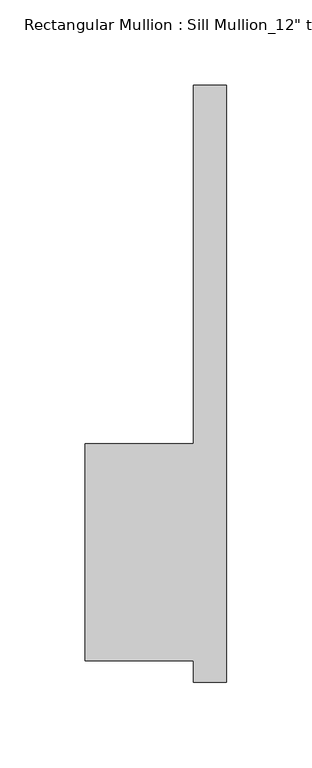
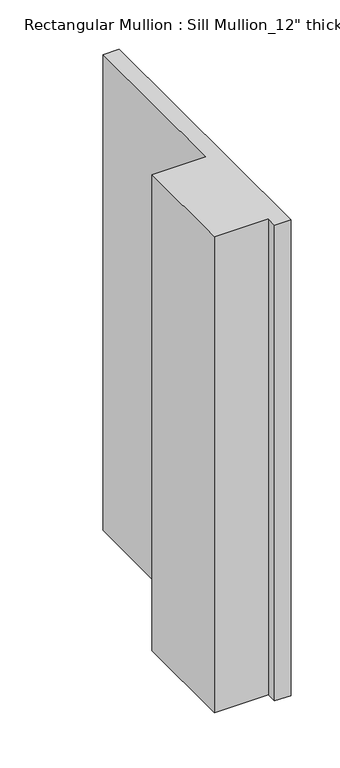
"""IFC4 building model written with IfcOpenShell, lengths in millimetres: member geometry."""

from ifc_helpers import new_model, si_unit, frame, origin, place, context, project, spatial, polyline, outline, extrude, source, transform, mapped, element, save


def member_700df7ac(model_context):
    return source(origin(), model_context, "Body", "SweptSolid", [
        extrude(outline(polyline([(-82.55, 50.8), (-19.05, 50.8), (-19.05, 260.35), (0.0, 260.35), (0.0, -88.9), (-19.05, -88.9), (-19.05, -76.2), (-82.55, -76.2), (-82.55, 50.8)])), frame((0.0, 0.0, -590.55), z_axis=(0.0, 0.0, 1.0), x_axis=(1.0, 0.0, 0.0)), (0.0, 0.0, 1.0), 590.55),
    ])


if __name__ == "__main__":
    model = new_model("IFC4")
    model_context = context("Model", 3, world=origin())
    ifc_project = project(units=[si_unit("LENGTHUNIT", "METRE", prefix="MILLI")], contexts=[model_context])
    site = spatial("IfcSite", under=ifc_project)
    building = spatial("IfcBuilding", under=site)
    placement = place(None, origin())
    member_shape = member_700df7ac(model_context)
    element("IfcMember", 1, ObjectType="Rectangular Mullion : Sill Mullion_12\" thick wall", at=placement, inside=building, context=model_context, shape_type="MappedRepresentation", body=[
        mapped(member_shape, transform((0.0, 0.0, 0.0), x_axis=(1.0, 0.0, 0.0), y_axis=(0.0, 1.0, 0.0), z_axis=(0.0, 0.0, 1.0))),
    ])
    save(model, "model.ifc")
